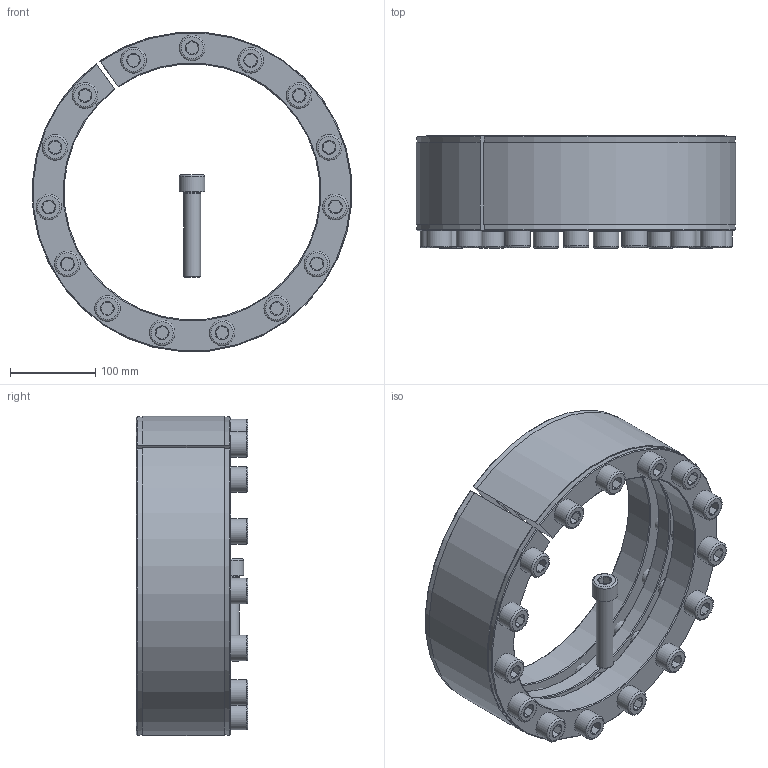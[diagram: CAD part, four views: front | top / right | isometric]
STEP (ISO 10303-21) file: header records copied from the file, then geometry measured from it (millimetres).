
FILE_DESCRIPTION( ( 'Unknown' ), '1' );
FILE_NAME( 'C:/Users/Frank/Eigene Daten/CAD/Solid Edge/KBK Karpstein/KBS Layout Baureihen/KBS 18/KBS - 300 x 375.stp', 'Unknown', ( 'Unknown' ), ( 'Unknown' ), 'XStep 1.0', 'Unknown', ' ' );
FILE_SCHEMA( ( 'automotive_design' ) );
Length unit declared in the file: millimetre
Products named in the file (3): Assem1; ISO EN DIN 4762 M20x100; KBS 18 - 300 x 375
Bounding box: 374.16 x 131 x 373.97 mm (x, y, z)
Volume: 7223543.3 mm3; surface area: 1155851.8 mm2
Topology: 18 solids, 18 shells, 572 faces, 1282 edges, 750 vertices
Faces by surface type: plane 242, cylinder 162, cone 136, torus 32
Full cylindrical faces by diameter (mm): 17.294 x30, 18 x16, 20 x32, 22 x60, 30 x16
Entity records: 4338 total; most frequent: CARTESIAN_POINT 1074, DIRECTION 674, ORIENTED_EDGE 544, AXIS2_PLACEMENT_3D 319, EDGE_CURVE 272, EDGE_LOOP 227, VERTEX_POINT 191, CIRCLE 191
